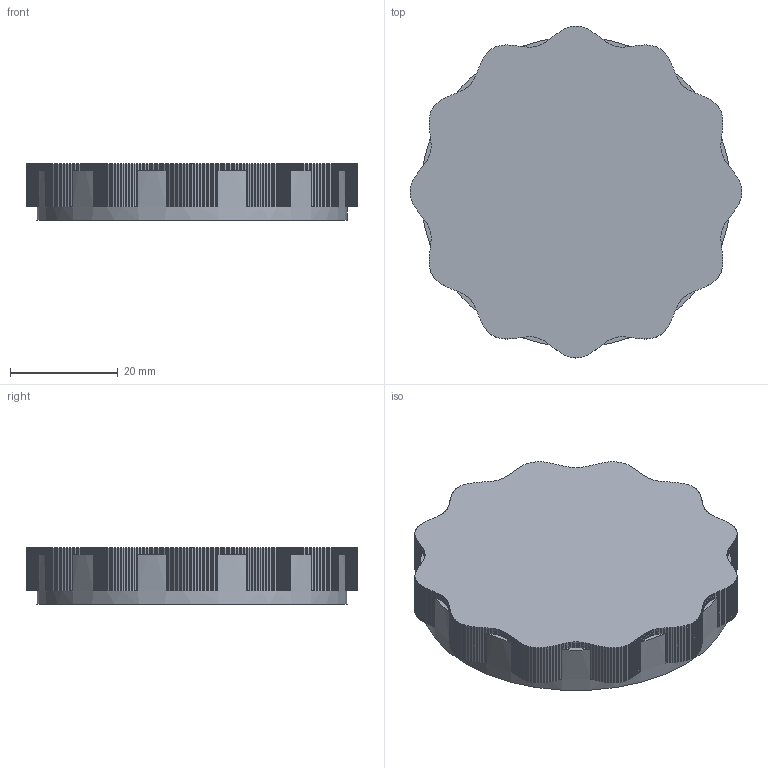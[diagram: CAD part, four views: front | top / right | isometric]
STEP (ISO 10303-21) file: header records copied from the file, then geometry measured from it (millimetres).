
FILE_DESCRIPTION(('Open CASCADE Model'),'2;1');
FILE_NAME('Open CASCADE Shape Model','2026-11-03T18:39:03',('Author'),( 'Open CASCADE'),'Open CASCADE STEP processor 7.9','Open CASCADE 7.9' ,'Unknown');
FILE_SCHEMA(('AUTOMOTIVE_DESIGN { 1 0 10303 214 1 1 1 1 }'));
Products named in the file (1): Open CASCADE STEP translator 7.9 5
Bounding box: 61.6 x 61.6 x 10.5 mm (x, y, z)
Volume: 9353.1 mm3; surface area: 9079.6 mm2
Topology: 1 solids, 1 shells, 755 faces, 2247 edges, 1498 vertices
Faces by surface type: plane 750, cylinder 5
Full cylindrical faces by diameter (mm): 5.2 x1, 7 x1, 50 x1, 51.95 x1, 57.6 x1
Entity records: 53505 total; most frequent: CARTESIAN_POINT 9661, DIRECTION 7696, LINE 6097, VECTOR 6097, ORIENTED_EDGE 4494, PCURVE 4494, DEFINITIONAL_REPRESENTATION 4494, EDGE_CURVE 2247
